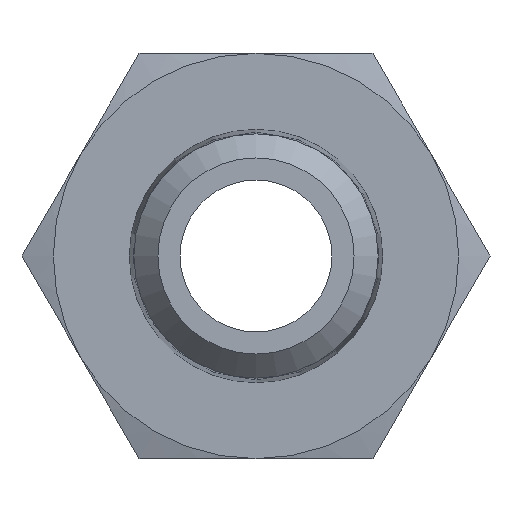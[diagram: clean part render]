
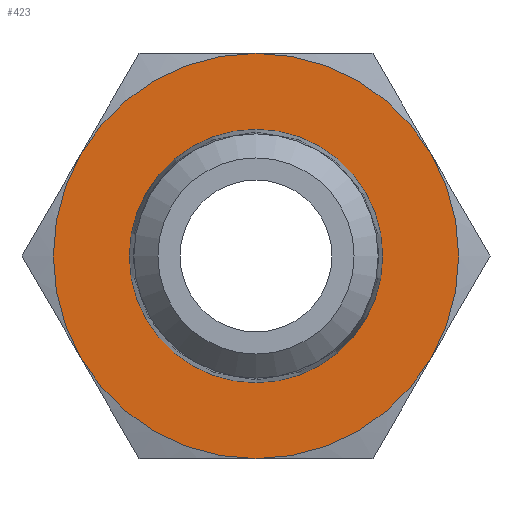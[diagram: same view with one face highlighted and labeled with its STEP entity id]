
A CAD part, left-side view. The second image highlights one B-rep face of the part: STEP entity #423.
In plain terms, the highlighted planar face has unit normal (-1, 0, 0).
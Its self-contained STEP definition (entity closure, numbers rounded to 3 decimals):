
#38=PLANE('',#485);
#47=CIRCLE('',#453,8.);
#48=CIRCLE('',#455,8.);
#49=CIRCLE('',#457,8.);
#50=CIRCLE('',#459,8.);
#51=CIRCLE('',#461,8.);
#52=CIRCLE('',#463,8.);
#63=CIRCLE('',#484,5.);
#116=ORIENTED_EDGE('',*,*,#186,.F.);
#117=ORIENTED_EDGE('',*,*,#193,.F.);
#118=ORIENTED_EDGE('',*,*,#199,.F.);
#119=ORIENTED_EDGE('',*,*,#195,.F.);
#120=ORIENTED_EDGE('',*,*,#189,.F.);
#121=ORIENTED_EDGE('',*,*,#183,.F.);
#122=ORIENTED_EDGE('',*,*,#222,.T.);
#183=EDGE_CURVE('',#237,#239,#47,.T.);
#186=EDGE_CURVE('',#240,#237,#48,.T.);
#189=EDGE_CURVE('',#239,#243,#49,.T.);
#193=EDGE_CURVE('',#245,#240,#50,.T.);
#195=EDGE_CURVE('',#243,#247,#51,.T.);
#199=EDGE_CURVE('',#247,#245,#52,.T.);
#222=EDGE_CURVE('',#265,#265,#63,.T.);
#237=VERTEX_POINT('',#637);
#239=VERTEX_POINT('',#640);
#240=VERTEX_POINT('',#650);
#243=VERTEX_POINT('',#664);
#245=VERTEX_POINT('',#679);
#247=VERTEX_POINT('',#688);
#265=VERTEX_POINT('',#789);
#318=EDGE_LOOP('',(#116,#117,#118,#119,#120,#121));
#319=EDGE_LOOP('',(#122));
#364=FACE_BOUND('',#318,.T.);
#365=FACE_BOUND('',#319,.T.);
#423=ADVANCED_FACE('',(#364,#365),#38,.F.);
#453=AXIS2_PLACEMENT_3D('',#639,#513,#514);
#455=AXIS2_PLACEMENT_3D('',#652,#517,#518);
#457=AXIS2_PLACEMENT_3D('',#663,#521,#522);
#459=AXIS2_PLACEMENT_3D('',#680,#525,#526);
#461=AXIS2_PLACEMENT_3D('',#687,#529,#530);
#463=AXIS2_PLACEMENT_3D('',#703,#533,#534);
#484=AXIS2_PLACEMENT_3D('',#788,#575,#576);
#485=AXIS2_PLACEMENT_3D('',#790,#577,#578);
#513=DIRECTION('',(1.,0.,0.));
#514=DIRECTION('',(0.,0.,-1.));
#517=DIRECTION('',(1.,0.,0.));
#518=DIRECTION('',(0.,0.,-1.));
#521=DIRECTION('',(1.,0.,0.));
#522=DIRECTION('',(0.,0.,-1.));
#525=DIRECTION('',(1.,0.,0.));
#526=DIRECTION('',(0.,0.,-1.));
#529=DIRECTION('',(1.,0.,0.));
#530=DIRECTION('',(0.,0.,-1.));
#533=DIRECTION('',(1.,0.,0.));
#534=DIRECTION('',(0.,0.,-1.));
#575=DIRECTION('',(1.,0.,0.));
#576=DIRECTION('',(0.,0.,-1.));
#577=DIRECTION('',(1.,0.,0.));
#578=DIRECTION('',(0.,0.,-1.));
#637=CARTESIAN_POINT('',(8.469,6.928,4.));
#639=CARTESIAN_POINT('',(8.469,0.,0.));
#640=CARTESIAN_POINT('',(8.469,0.,8.));
#650=CARTESIAN_POINT('',(8.469,6.928,-4.));
#652=CARTESIAN_POINT('',(8.469,0.,0.));
#663=CARTESIAN_POINT('',(8.469,0.,0.));
#664=CARTESIAN_POINT('',(8.469,-6.928,4.));
#679=CARTESIAN_POINT('',(8.469,0.,-8.));
#680=CARTESIAN_POINT('',(8.469,0.,0.));
#687=CARTESIAN_POINT('',(8.469,0.,0.));
#688=CARTESIAN_POINT('',(8.469,-6.928,-4.));
#703=CARTESIAN_POINT('',(8.469,0.,0.));
#788=CARTESIAN_POINT('',(8.469,0.,0.));
#789=CARTESIAN_POINT('',(8.469,0.,-5.));
#790=CARTESIAN_POINT('',(8.469,5.,0.));
